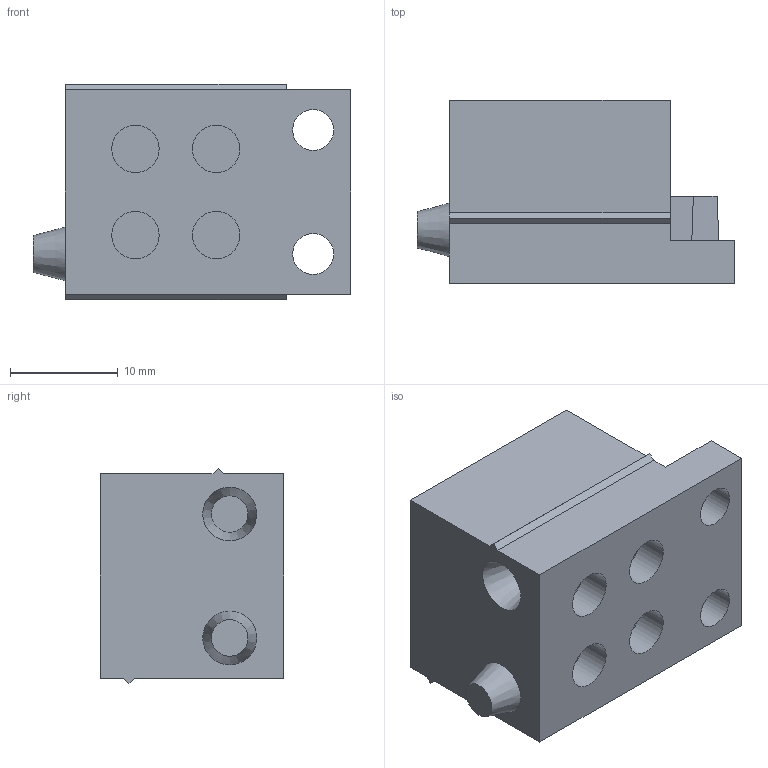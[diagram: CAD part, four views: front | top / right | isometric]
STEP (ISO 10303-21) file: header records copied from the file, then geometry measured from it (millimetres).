
FILE_DESCRIPTION(/* description */ ('STEP AP203'),/* implementation_level */ '2;1');
FILE_NAME(/* name */ '107845 TMS-STPG-GY',/* time_stamp */ '2024-10-04T14:43:15+02:00',/* author */ ('License CC BY-ND 4.0'),/* organization */ ('CADENAS'),/* preprocessor_version */ 'ST-DEVELOPER v19.3',/* originating_system */ 'PARTsolutions',/* authorisation */ ' ');
FILE_SCHEMA (('CONFIG_CONTROL_DESIGN'));
Length unit declared in the file: millimetre
Products named in the file (1): 107845 TMS-STPG-GY
Bounding box: 29.5 x 17 x 20 mm (x, y, z)
Volume: 6713 mm3; surface area: 2917 mm2
Topology: 1 solids, 1 shells, 44 faces, 96 edges, 64 vertices
Faces by surface type: plane 32, cylinder 10, cone 2
Full cylindrical faces by diameter (mm): 3.8 x2, 4.4 x8
Entity records: 1182 total; most frequent: DIRECTION 198, CARTESIAN_POINT 193, ORIENTED_EDGE 168, EDGE_CURVE 84, EDGE_LOOP 70, FACE_BOUND 70, AXIS2_PLACEMENT_3D 69, VERTEX_POINT 64
